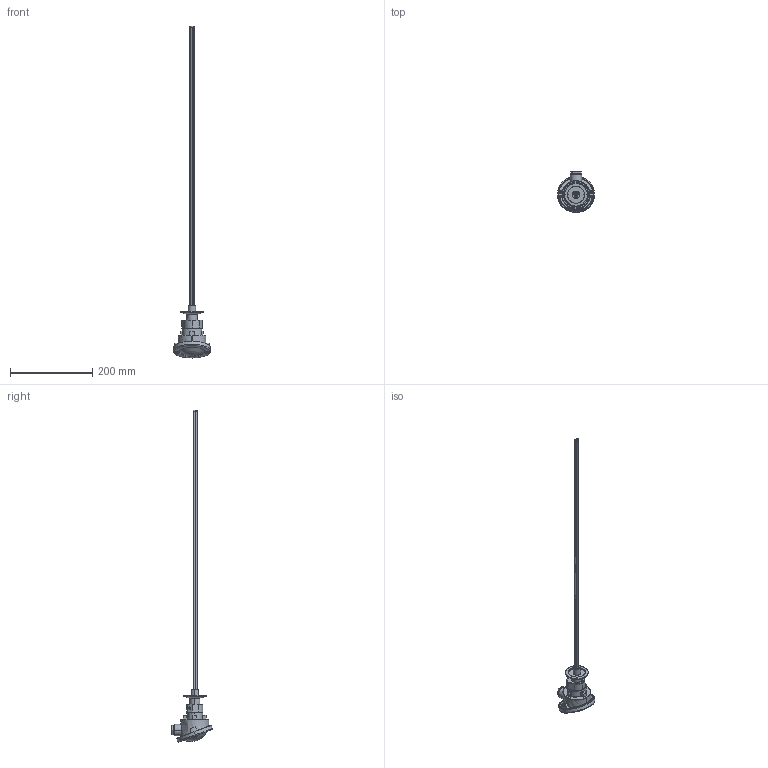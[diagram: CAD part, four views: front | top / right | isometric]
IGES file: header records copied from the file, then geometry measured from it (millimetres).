
Start section: SolidWorks IGES file using analytic representation for surfaces
Global section: file name: U:\02 - Zeichungen\8-0503-KF40\13-0503-KF40.IGS; native system: SolidWorks 2018; preprocessor: SolidWorks 2018; author: koertv0d; date: 180902.111535; units: millimetre
Bounding box: 90 x 99.45 x 808.51 mm (x, y, z)
Surface area: 180832.6 mm2 (no closed solid volume)
Topology: 0 solids, 0 shells, 971 faces, 16935 edges, 16885 vertices
Faces by surface type: revolution 549, bspline 422
